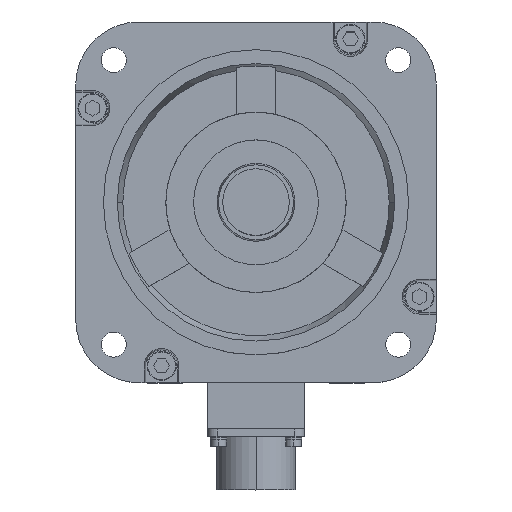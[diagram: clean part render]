
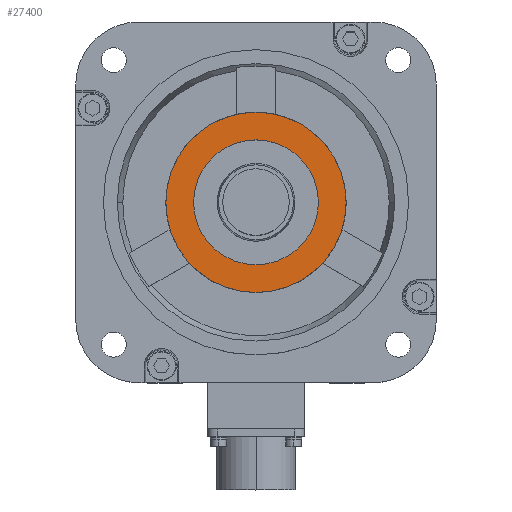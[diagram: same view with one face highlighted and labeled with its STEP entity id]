
A CAD part, top view. The second image highlights one B-rep face of the part: STEP entity #27400.
In plain terms, the highlighted planar face has unit normal (0, 0, 1).
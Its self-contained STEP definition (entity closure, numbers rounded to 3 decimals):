
#8050=CARTESIAN_POINT('',(0.,0.,6.));
#8051=DIRECTION('',(0.,0.,1.));
#8052=DIRECTION('',(1.,0.,0.));
#8053=AXIS2_PLACEMENT_3D('',#8050,#8051,#8052);
#8055=CARTESIAN_POINT('',(0.,0.,6.));
#8056=DIRECTION('',(0.,0.,1.));
#8057=DIRECTION('',(-1.,0.,0.));
#8058=AXIS2_PLACEMENT_3D('',#8055,#8056,#8057);
#8060=CARTESIAN_POINT('',(0.,0.,6.));
#8061=DIRECTION('',(0.,0.,-1.));
#8062=DIRECTION('',(-1.,0.,0.));
#8063=AXIS2_PLACEMENT_3D('',#8060,#8061,#8062);
#8065=CARTESIAN_POINT('',(0.,0.,6.));
#8066=DIRECTION('',(0.,0.,-1.));
#8067=DIRECTION('',(1.,0.,0.));
#8068=AXIS2_PLACEMENT_3D('',#8065,#8066,#8067);
#9833=CARTESIAN_POINT('',(-22.5,0.,6.));
#9835=VERTEX_POINT('',#9833);
#9838=CARTESIAN_POINT('',(22.5,0.,6.));
#9839=VERTEX_POINT('',#9838);
#12001=CARTESIAN_POINT('',(-32.5,0.,6.));
#12002=VERTEX_POINT('',#12001);
#12003=CARTESIAN_POINT('',(32.5,0.,6.));
#12004=VERTEX_POINT('',#12003);
#27385=CARTESIAN_POINT('',(0.,0.,6.));
#27386=DIRECTION('',(0.,0.,1.));
#27387=DIRECTION('',(1.,0.,0.));
#27388=AXIS2_PLACEMENT_3D('',#27385,#27386,#27387);
#27389=PLANE('',#27388);
#27390=ORIENTED_EDGE('',*,*,#27372,.F.);
#27391=ORIENTED_EDGE('',*,*,#27331,.F.);
#27392=EDGE_LOOP('',(#27390,#27391));
#27393=FACE_OUTER_BOUND('',#27392,.F.);
#27395=ORIENTED_EDGE('',*,*,#27394,.F.);
#27397=ORIENTED_EDGE('',*,*,#27396,.F.);
#27398=EDGE_LOOP('',(#27395,#27397));
#27399=FACE_BOUND('',#27398,.F.);
#27400=ADVANCED_FACE('',(#27393,#27399),#27389,.T.);
#8054=CIRCLE('',#8053,32.5);
#8059=CIRCLE('',#8058,32.5);
#8064=CIRCLE('',#8063,22.5);
#8069=CIRCLE('',#8068,22.5);
#27331=EDGE_CURVE('',#12002,#12004,#8059,.T.);
#27372=EDGE_CURVE('',#12004,#12002,#8054,.T.);
#27394=EDGE_CURVE('',#9835,#9839,#8064,.T.);
#27396=EDGE_CURVE('',#9839,#9835,#8069,.T.);
